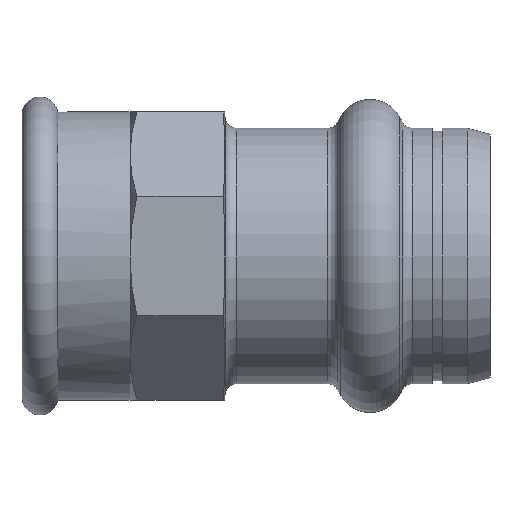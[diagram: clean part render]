
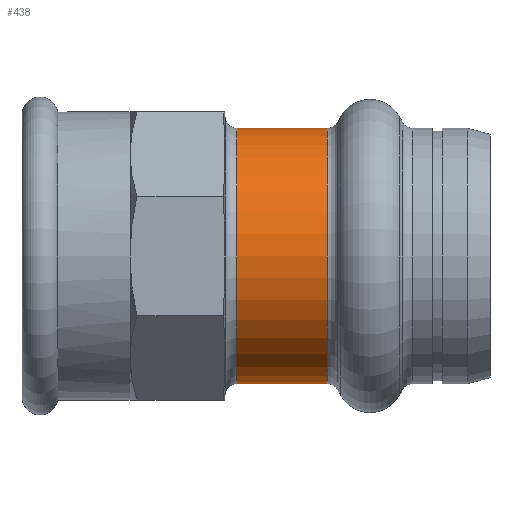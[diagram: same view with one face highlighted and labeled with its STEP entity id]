
A CAD part, left-side view. The second image highlights one B-rep face of the part: STEP entity #438.
In plain terms, the highlighted cylindrical face has radius 10.65 mm (diameter 21.3 mm), a partial arc.
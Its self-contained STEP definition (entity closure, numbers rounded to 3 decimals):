
#165 = ORIENTED_EDGE ( 'NONE', *, *, #1432, .T. ) ;
#232 = CARTESIAN_POINT ( 'NONE',  ( 0., -17.811, -10.65 ) ) ;
#247 = CIRCLE ( 'NONE', #930, 10.65 ) ;
#287 = CYLINDRICAL_SURFACE ( 'NONE', #1394, 10.65 ) ;
#373 = LINE ( 'NONE', #232, #1137 ) ;
#423 = VERTEX_POINT ( 'NONE', #1096 ) ;
#425 = EDGE_CURVE ( 'NONE', #423, #1705, #1627, .T. ) ;
#438 = ADVANCED_FACE ( 'NONE', ( #1886 ), #287, .T. ) ;
#455 = ORIENTED_EDGE ( 'NONE', *, *, #1635, .T. ) ;
#471 = LINE ( 'NONE', #1588, #522 ) ;
#513 = DIRECTION ( 'NONE',  ( 0., -1., 0. ) ) ;
#522 = VECTOR ( 'NONE', #1525, 1000. ) ;
#556 = VERTEX_POINT ( 'NONE', #1682 ) ;
#557 = ORIENTED_EDGE ( 'NONE', *, *, #635, .F. ) ;
#635 = EDGE_CURVE ( 'NONE', #1736, #423, #471, .T. ) ;
#725 = DIRECTION ( 'NONE',  ( 0., -1., 0. ) ) ;
#893 = AXIS2_PLACEMENT_3D ( 'NONE', #1698, #1097, #1069 ) ;
#930 = AXIS2_PLACEMENT_3D ( 'NONE', #1464, #962, #957 ) ;
#957 = DIRECTION ( 'NONE',  ( 0., 0., -1. ) ) ;
#962 = DIRECTION ( 'NONE',  ( 0., -1., 0. ) ) ;
#1069 = DIRECTION ( 'NONE',  ( 0., 0., -1. ) ) ;
#1089 = CARTESIAN_POINT ( 'NONE',  ( 0., -17.811, 0. ) ) ;
#1096 = CARTESIAN_POINT ( 'NONE',  ( 0., 13.58, 10.65 ) ) ;
#1097 = DIRECTION ( 'NONE',  ( 0., -1., 0. ) ) ;
#1137 = VECTOR ( 'NONE', #513, 1000. ) ;
#1193 = EDGE_LOOP ( 'NONE', ( #557, #165, #455, #1743 ) ) ;
#1311 = CARTESIAN_POINT ( 'NONE',  ( 0., 13.58, -10.65 ) ) ;
#1394 = AXIS2_PLACEMENT_3D ( 'NONE', #1089, #725, #1873 ) ;
#1432 = EDGE_CURVE ( 'NONE', #1736, #556, #247, .T. ) ;
#1438 = CARTESIAN_POINT ( 'NONE',  ( 0., 21.084, 10.65 ) ) ;
#1464 = CARTESIAN_POINT ( 'NONE',  ( 0., 21.084, 0. ) ) ;
#1525 = DIRECTION ( 'NONE',  ( 0., -1., 0. ) ) ;
#1588 = CARTESIAN_POINT ( 'NONE',  ( 0., -17.811, 10.65 ) ) ;
#1627 = CIRCLE ( 'NONE', #893, 10.65 ) ;
#1635 = EDGE_CURVE ( 'NONE', #556, #1705, #373, .T. ) ;
#1682 = CARTESIAN_POINT ( 'NONE',  ( 0., 21.084, -10.65 ) ) ;
#1698 = CARTESIAN_POINT ( 'NONE',  ( 0., 13.58, 0. ) ) ;
#1705 = VERTEX_POINT ( 'NONE', #1311 ) ;
#1736 = VERTEX_POINT ( 'NONE', #1438 ) ;
#1743 = ORIENTED_EDGE ( 'NONE', *, *, #425, .F. ) ;
#1873 = DIRECTION ( 'NONE',  ( 0., 0., -1. ) ) ;
#1886 = FACE_OUTER_BOUND ( 'NONE', #1193, .T. ) ;
